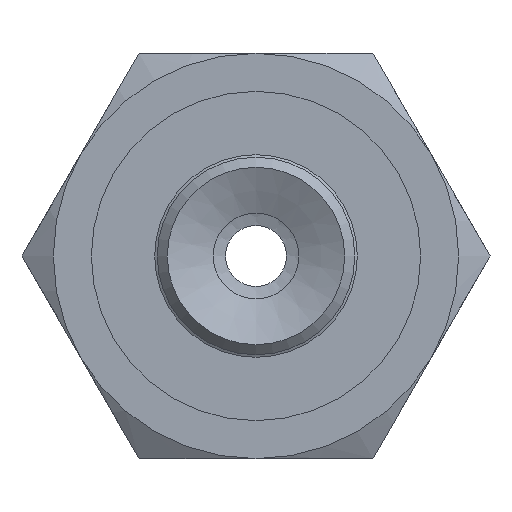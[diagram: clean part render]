
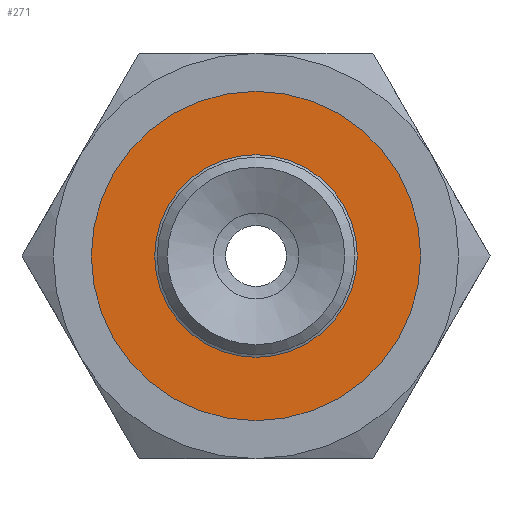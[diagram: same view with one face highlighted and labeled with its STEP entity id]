
A CAD part, front view. The second image highlights one B-rep face of the part: STEP entity #271.
In plain terms, the highlighted planar face has unit normal (0, -1, 0).
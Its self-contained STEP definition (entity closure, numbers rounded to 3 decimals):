
#271=ADVANCED_FACE('',(#339,#340),#341,.T.);
#339=FACE_BOUND('',#508,.T.);
#340=FACE_OUTER_BOUND('',#509,.T.);
#341=PLANE('',#510);
#508=EDGE_LOOP('',(#714));
#509=EDGE_LOOP('',(#715));
#510=AXIS2_PLACEMENT_3D('',#716,#717,#718);
#714=ORIENTED_EDGE('',*,*,#1060,.F.);
#715=ORIENTED_EDGE('',*,*,#1061,.T.);
#716=CARTESIAN_POINT('',(0.6,0.,0.0));
#717=DIRECTION('',(0.0,-1.0,0.0));
#718=DIRECTION('',(0.0,0.0,-1.0));
#1060=EDGE_CURVE('',#1148,#1148,#1149,.T.);
#1061=EDGE_CURVE('',#1150,#1150,#1151,.T.);
#1148=VERTEX_POINT('',#1300);
#1149=CIRCLE('',#1301,1.0);
#1150=VERTEX_POINT('',#1302);
#1151=CIRCLE('',#1303,3.25);
#1300=CARTESIAN_POINT('',(0.0,0.,-1.0));
#1301=AXIS2_PLACEMENT_3D('',#1497,#1498,#1499);
#1302=CARTESIAN_POINT('',(0.0,0.,-3.25));
#1303=AXIS2_PLACEMENT_3D('',#1500,#1501,#1502);
#1497=CARTESIAN_POINT('',(0.0,0.,0.0));
#1498=DIRECTION('',(0.0,-1.0,0.0));
#1499=DIRECTION('',(0.0,0.0,-1.0));
#1500=CARTESIAN_POINT('',(0.0,0.,0.0));
#1501=DIRECTION('',(0.0,-1.0,0.0));
#1502=DIRECTION('',(0.0,0.0,-1.0));
